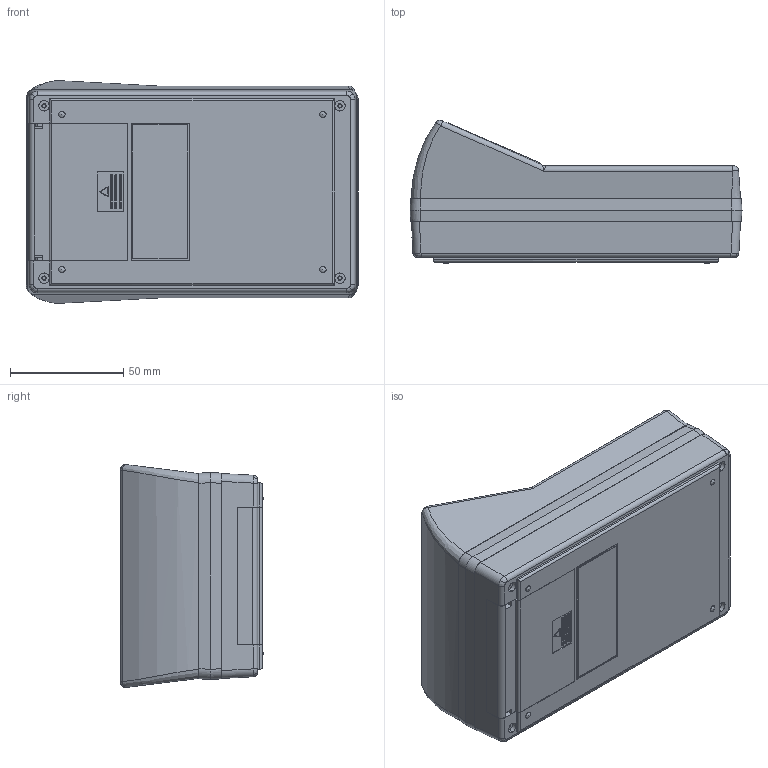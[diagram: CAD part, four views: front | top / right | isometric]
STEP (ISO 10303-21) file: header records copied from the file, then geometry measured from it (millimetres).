
FILE_DESCRIPTION (( 'STEP AP214' ), '1' );
FILE_NAME ('90-53-2A-E-R.STEP', '2020-10-16T07:15:16', ( 'Rudy' ), ( '' ), 'SwSTEP 2.0', 'SolidWorks 2014', '' );
FILE_SCHEMA (( 'AUTOMOTIVE_DESIGN' ));
Length unit declared in the file: millimetre
Products named in the file (7): 90 PCB 2AA; 90 Angle LCD expander; 2AAdoor; 90-bessel; Top Angled LCD; 90-2AA; 90-53-2A-E-R
Assembly tree (6 placements, depth 2):
  90-53-2A-E-R
    90-2AA
    Top Angled LCD
    90-bessel
    2AAdoor
    90 Angle LCD expander
    90 PCB 2AA
Bounding box: 146.8 x 63.32 x 98.54 mm (x, y, z)
Volume: 157174 mm3; surface area: 136921.9 mm2
Topology: 6 solids, 6 shells, 798 faces, 2104 edges, 1356 vertices
Faces by surface type: plane 511, cylinder 181, cone 52, torus 24, bspline 20, sphere 10
Entity records: 25695 total; most frequent: CARTESIAN_POINT 5752, ORIENTED_EDGE 4168, DIRECTION 3956, EDGE_CURVE 2084, VECTOR 1496, LINE 1496, VERTEX_POINT 1348, AXIS2_PLACEMENT_3D 1230
